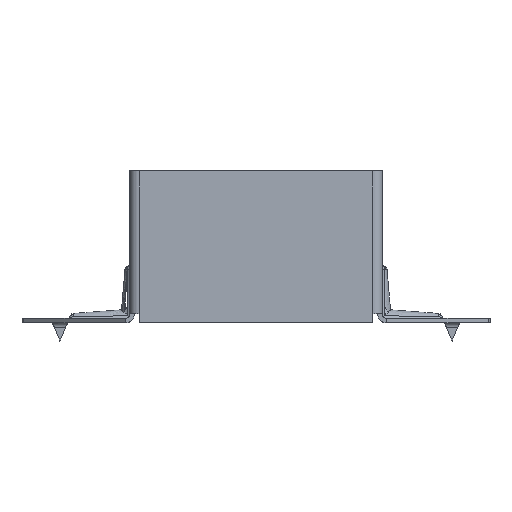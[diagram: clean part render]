
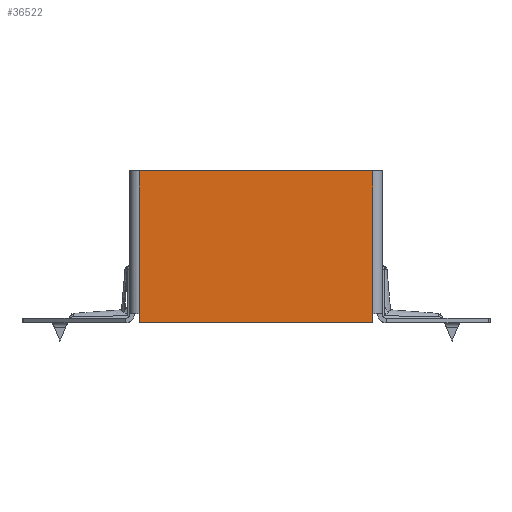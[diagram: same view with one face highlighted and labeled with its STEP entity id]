
A CAD part, front view. The second image highlights one B-rep face of the part: STEP entity #36522.
In plain terms, the highlighted planar face has unit normal (0, -1, 0).
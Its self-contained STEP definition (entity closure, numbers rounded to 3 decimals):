
#3191 = LINE ( 'NONE', #35894, #5422 ) ;
#3922 = DIRECTION ( 'NONE',  ( 1., 0., 0. ) ) ;
#4278 = ORIENTED_EDGE ( 'NONE', *, *, #8615, .F. ) ;
#5022 = VECTOR ( 'NONE', #32193, 1000. ) ;
#5422 = VECTOR ( 'NONE', #21421, 1000. ) ;
#6051 = CARTESIAN_POINT ( 'NONE',  ( -38.5, -75.75, -32. ) ) ;
#6711 = VERTEX_POINT ( 'NONE', #40887 ) ;
#7657 = ORIENTED_EDGE ( 'NONE', *, *, #17445, .T. ) ;
#8615 = EDGE_CURVE ( 'NONE', #23138, #6711, #3191, .T. ) ;
#8997 = VERTEX_POINT ( 'NONE', #42283 ) ;
#9246 = VECTOR ( 'NONE', #43441, 1000. ) ;
#9431 = ORIENTED_EDGE ( 'NONE', *, *, #23650, .F. ) ;
#9962 = VECTOR ( 'NONE', #22596, 1000. ) ;
#10340 = EDGE_CURVE ( 'NONE', #19930, #43089, #30660, .T. ) ;
#10607 = CARTESIAN_POINT ( 'NONE',  ( 38.5, -75.75, -29. ) ) ;
#17445 = EDGE_CURVE ( 'NONE', #41986, #8997, #43444, .T. ) ;
#18219 = DIRECTION ( 'NONE',  ( 0., 1., 0. ) ) ;
#19356 = EDGE_CURVE ( 'NONE', #6711, #8997, #28253, .T. ) ;
#19538 = LINE ( 'NONE', #29212, #9962 ) ;
#19930 = VERTEX_POINT ( 'NONE', #22380 ) ;
#20771 = LINE ( 'NONE', #31888, #5022 ) ;
#21421 = DIRECTION ( 'NONE',  ( 1., 0., 0. ) ) ;
#22380 = CARTESIAN_POINT ( 'NONE',  ( -38.5, -75.75, -29. ) ) ;
#22596 = DIRECTION ( 'NONE',  ( 0., 0., 1. ) ) ;
#22797 = CARTESIAN_POINT ( 'NONE',  ( -38.5, -75.75, 18. ) ) ;
#23138 = VERTEX_POINT ( 'NONE', #22797 ) ;
#23576 = ORIENTED_EDGE ( 'NONE', *, *, #19356, .F. ) ;
#23650 = EDGE_CURVE ( 'NONE', #19930, #23138, #19538, .T. ) ;
#24054 = ORIENTED_EDGE ( 'NONE', *, *, #10340, .T. ) ;
#24321 = AXIS2_PLACEMENT_3D ( 'NONE', #33158, #18219, #3922 ) ;
#25296 = PLANE ( 'NONE',  #24321 ) ;
#25358 = CARTESIAN_POINT ( 'NONE',  ( -38.5, -75.75, -29. ) ) ;
#28253 = LINE ( 'NONE', #40578, #37814 ) ;
#29212 = CARTESIAN_POINT ( 'NONE',  ( -38.5, -75.75, 3. ) ) ;
#30660 = LINE ( 'NONE', #25358, #9246 ) ;
#30828 = EDGE_LOOP ( 'NONE', ( #23576, #4278, #9431, #24054, #43550, #7657 ) ) ;
#31888 = CARTESIAN_POINT ( 'NONE',  ( -40.75, -75.75, -32. ) ) ;
#32193 = DIRECTION ( 'NONE',  ( -1., 0., 0. ) ) ;
#33158 = CARTESIAN_POINT ( 'NONE',  ( -20., -75.75, 3. ) ) ;
#35457 = FACE_OUTER_BOUND ( 'NONE', #30828, .T. ) ;
#35894 = CARTESIAN_POINT ( 'NONE',  ( -77., -75.75, 18. ) ) ;
#36522 = ADVANCED_FACE ( 'NONE', ( #35457 ), #25296, .F. ) ;
#36811 = DIRECTION ( 'NONE',  ( 0., 0., -1. ) ) ;
#37814 = VECTOR ( 'NONE', #36811, 1000. ) ;
#39415 = DIRECTION ( 'NONE',  ( 0., 0., 1. ) ) ;
#40578 = CARTESIAN_POINT ( 'NONE',  ( 38.5, -75.75, 3. ) ) ;
#40887 = CARTESIAN_POINT ( 'NONE',  ( 38.5, -75.75, 18. ) ) ;
#41771 = VECTOR ( 'NONE', #39415, 1000. ) ;
#41986 = VERTEX_POINT ( 'NONE', #46639 ) ;
#42283 = CARTESIAN_POINT ( 'NONE',  ( 38.5, -75.75, -29. ) ) ;
#43089 = VERTEX_POINT ( 'NONE', #6051 ) ;
#43441 = DIRECTION ( 'NONE',  ( 0., 0., -1. ) ) ;
#43444 = LINE ( 'NONE', #10607, #41771 ) ;
#43550 = ORIENTED_EDGE ( 'NONE', *, *, #43557, .F. ) ;
#43557 = EDGE_CURVE ( 'NONE', #41986, #43089, #20771, .T. ) ;
#46639 = CARTESIAN_POINT ( 'NONE',  ( 38.5, -75.75, -32. ) ) ;
